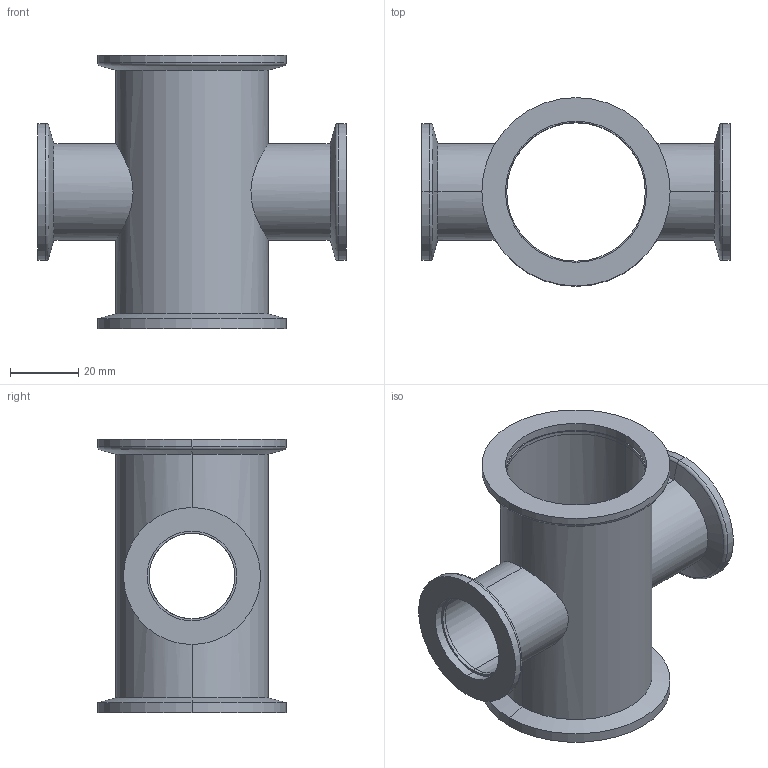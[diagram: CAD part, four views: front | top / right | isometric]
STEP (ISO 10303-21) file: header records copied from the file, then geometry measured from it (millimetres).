
FILE_DESCRIPTION (( 'STEP AP214' ), '1' );
FILE_NAME ('W3RKS40-25.STEP', '2020-08-24T13:31:55', ( '' ), ( '' ), 'SwSTEP 2.0', 'SolidWorks 2020', '' );
FILE_SCHEMA (( 'AUTOMOTIVE_DESIGN' ));
Length unit declared in the file: millimetre
Products named in the file (1): W3RKS40-25
Bounding box: 90 x 55 x 80 mm (x, y, z)
Volume: 36218.4 mm3; surface area: 37165.1 mm2
Topology: 7 solids, 7 shells, 81 faces, 170 edges, 102 vertices
Faces by surface type: cylinder 51, plane 16, cone 8, torus 6
Entity records: 3064 total; most frequent: CARTESIAN_POINT 1162, DIRECTION 410, ORIENTED_EDGE 340, AXIS2_PLACEMENT_3D 174, EDGE_CURVE 170, VERTEX_POINT 102, EDGE_LOOP 98, CIRCLE 92
